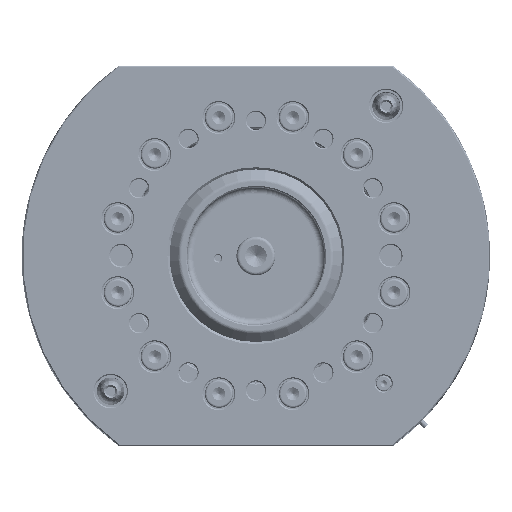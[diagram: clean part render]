
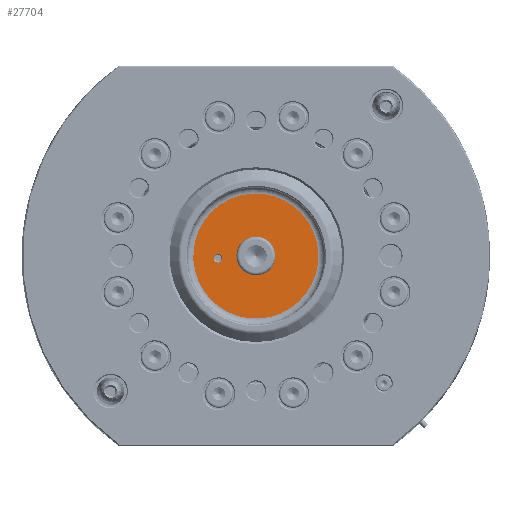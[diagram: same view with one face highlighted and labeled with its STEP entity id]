
A CAD part, top view. The second image highlights one B-rep face of the part: STEP entity #27704.
In plain terms, the highlighted planar face has unit normal (0, 0, 1).
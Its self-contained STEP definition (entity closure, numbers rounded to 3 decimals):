
#27704=ADVANCED_FACE('',(#33794,#33795,#33796),#29105,.T.);
#29105=PLANE('',#60423);
#30950=CIRCLE('',#60376,2.);
#30952=CIRCLE('',#60379,29.);
#30978=CIRCLE('',#60422,9.);
#33794=FACE_BOUND('',#37876,.T.);
#33795=FACE_BOUND('',#37877,.T.);
#33796=FACE_BOUND('',#37878,.T.);
#37876=EDGE_LOOP('',(#46916));
#37877=EDGE_LOOP('',(#46917));
#37878=EDGE_LOOP('',(#46918));
#46916=ORIENTED_EDGE('',*,*,#55492,.T.);
#46917=ORIENTED_EDGE('',*,*,#55457,.T.);
#46918=ORIENTED_EDGE('',*,*,#55459,.T.);
#50871=VERTEX_POINT('',#109980);
#50873=VERTEX_POINT('',#109985);
#50894=VERTEX_POINT('',#110455);
#55457=EDGE_CURVE('',#50871,#50871,#30950,.T.);
#55459=EDGE_CURVE('',#50873,#50873,#30952,.T.);
#55492=EDGE_CURVE('',#50894,#50894,#30978,.T.);
#60376=AXIS2_PLACEMENT_3D('',#109979,#70969,#70970);
#60379=AXIS2_PLACEMENT_3D('',#109984,#70975,#70976);
#60422=AXIS2_PLACEMENT_3D('',#110454,#71061,#71062);
#60423=AXIS2_PLACEMENT_3D('',#110456,#71063,#71064);
#70969=DIRECTION('',(0.,0.,-1.));
#70970=DIRECTION('',(-0.998,-0.058,0.));
#70975=DIRECTION('',(0.,0.,1.));
#70976=DIRECTION('',(-0.998,-0.058,0.));
#71061=DIRECTION('',(0.,0.,-1.));
#71062=DIRECTION('',(0.,-1.,0.));
#71063=DIRECTION('',(0.,0.,1.));
#71064=DIRECTION('',(-0.998,-0.058,0.));
#109979=CARTESIAN_POINT('',(-17.47,-1.016,16.797));
#109980=CARTESIAN_POINT('',(-19.467,-1.132,16.797));
#109984=CARTESIAN_POINT('',(0.,0.,
16.797));
#109985=CARTESIAN_POINT('',(-28.951,-1.684,16.797));
#110454=CARTESIAN_POINT('',(0.,0.,
16.797));
#110455=CARTESIAN_POINT('',(0.,-9.,16.797));
#110456=CARTESIAN_POINT('',(6.489,0.377,16.797));
